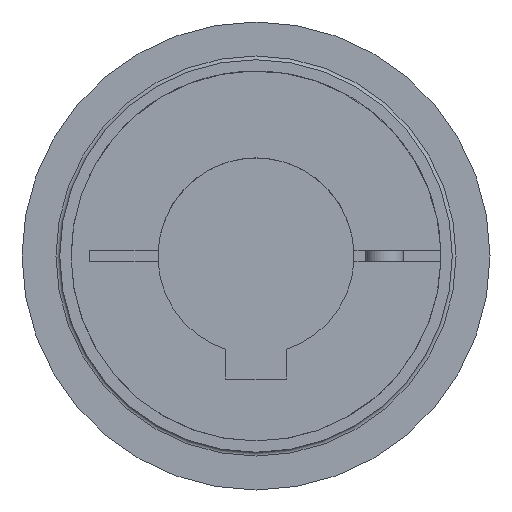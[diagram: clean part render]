
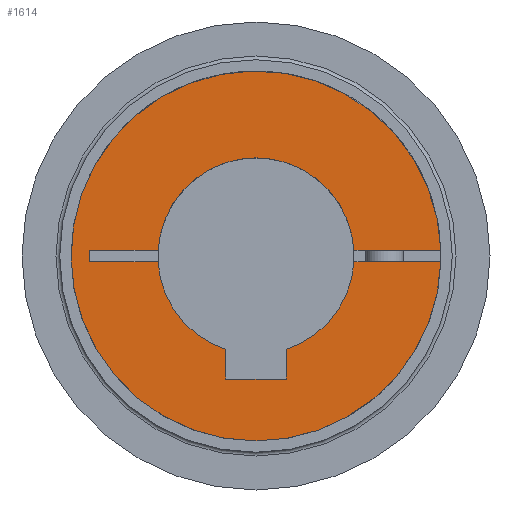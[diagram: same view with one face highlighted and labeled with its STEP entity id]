
A CAD part, left-side view. The second image highlights one B-rep face of the part: STEP entity #1614.
In plain terms, the highlighted planar face has unit normal (-1, 0, 0).
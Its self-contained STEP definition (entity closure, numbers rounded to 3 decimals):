
#24=PLANE('',#1855);
#149=LINE('',#2938,#252);
#152=LINE('',#2944,#255);
#153=LINE('',#2946,#256);
#164=LINE('',#2967,#267);
#165=LINE('',#2969,#268);
#166=LINE('',#2971,#269);
#167=LINE('',#2973,#270);
#168=LINE('',#2974,#271);
#252=VECTOR('',#2265,1.);
#255=VECTOR('',#2270,1.);
#256=VECTOR('',#2273,1.);
#267=VECTOR('',#2296,1.);
#268=VECTOR('',#2299,1.);
#269=VECTOR('',#2300,1.);
#270=VECTOR('',#2301,1.);
#271=VECTOR('',#2302,1.);
#387=FACE_OUTER_BOUND('',#490,.T.);
#490=EDGE_LOOP('',(#1332,#1333,#1334,#1335,#1336,#1337,#1338,#1339,#1340,
#1341,#1342,#1343,#1344));
#652=CIRCLE('',#1790,24.5);
#655=CIRCLE('',#1793,24.5);
#686=CIRCLE('',#1839,13.);
#689=CIRCLE('',#1843,13.);
#691=CIRCLE('',#1845,13.);
#761=VERTEX_POINT('',#2634);
#762=VERTEX_POINT('',#2636);
#767=VERTEX_POINT('',#2646);
#808=VERTEX_POINT('',#2908);
#809=VERTEX_POINT('',#2909);
#814=VERTEX_POINT('',#2920);
#815=VERTEX_POINT('',#2922);
#818=VERTEX_POINT('',#2928);
#819=VERTEX_POINT('',#2930);
#821=VERTEX_POINT('',#2936);
#823=VERTEX_POINT('',#2942);
#828=VERTEX_POINT('',#2970);
#829=VERTEX_POINT('',#2972);
#946=EDGE_CURVE('',#761,#762,#652,.T.);
#952=EDGE_CURVE('',#767,#761,#655,.T.);
#1005=EDGE_CURVE('',#808,#809,#686,.T.);
#1011=EDGE_CURVE('',#815,#814,#689,.T.);
#1015=EDGE_CURVE('',#819,#818,#691,.T.);
#1019=EDGE_CURVE('',#818,#821,#149,.T.);
#1022=EDGE_CURVE('',#821,#823,#152,.T.);
#1023=EDGE_CURVE('',#823,#815,#153,.T.);
#1034=EDGE_CURVE('',#809,#762,#164,.T.);
#1035=EDGE_CURVE('',#767,#819,#165,.T.);
#1036=EDGE_CURVE('',#814,#828,#166,.T.);
#1037=EDGE_CURVE('',#828,#829,#167,.T.);
#1038=EDGE_CURVE('',#829,#808,#168,.T.);
#1332=ORIENTED_EDGE('',*,*,#1005,.T.);
#1333=ORIENTED_EDGE('',*,*,#1034,.T.);
#1334=ORIENTED_EDGE('',*,*,#946,.F.);
#1335=ORIENTED_EDGE('',*,*,#952,.F.);
#1336=ORIENTED_EDGE('',*,*,#1035,.T.);
#1337=ORIENTED_EDGE('',*,*,#1015,.T.);
#1338=ORIENTED_EDGE('',*,*,#1019,.T.);
#1339=ORIENTED_EDGE('',*,*,#1022,.T.);
#1340=ORIENTED_EDGE('',*,*,#1023,.T.);
#1341=ORIENTED_EDGE('',*,*,#1011,.T.);
#1342=ORIENTED_EDGE('',*,*,#1036,.T.);
#1343=ORIENTED_EDGE('',*,*,#1037,.T.);
#1344=ORIENTED_EDGE('',*,*,#1038,.T.);
#1614=ADVANCED_FACE('',(#387),#24,.T.);
#1790=AXIS2_PLACEMENT_3D('',#2637,#2124,#2125);
#1793=AXIS2_PLACEMENT_3D('',#2648,#2133,#2134);
#1839=AXIS2_PLACEMENT_3D('',#2910,#2241,#2242);
#1843=AXIS2_PLACEMENT_3D('',#2923,#2252,#2253);
#1845=AXIS2_PLACEMENT_3D('',#2931,#2258,#2259);
#1855=AXIS2_PLACEMENT_3D('',#2968,#2297,#2298);
#2124=DIRECTION('center_axis',(1.,0.,0.));
#2125=DIRECTION('ref_axis',(0.,0.,1.));
#2133=DIRECTION('center_axis',(1.,0.,0.));
#2134=DIRECTION('ref_axis',(0.,0.,1.));
#2241=DIRECTION('center_axis',(1.,0.,0.));
#2242=DIRECTION('ref_axis',(0.,0.,-1.));
#2252=DIRECTION('center_axis',(1.,0.,0.));
#2253=DIRECTION('ref_axis',(0.,0.,-1.));
#2258=DIRECTION('center_axis',(1.,0.,0.));
#2259=DIRECTION('ref_axis',(0.,0.,-1.));
#2265=DIRECTION('',(0.,0.,-1.));
#2270=DIRECTION('',(0.,1.,0.));
#2273=DIRECTION('',(0.,0.,1.));
#2296=DIRECTION('',(0.,-1.,0.));
#2297=DIRECTION('center_axis',(-1.,0.,0.));
#2298=DIRECTION('ref_axis',(0.,0.,-1.));
#2299=DIRECTION('',(0.,1.,0.));
#2300=DIRECTION('',(0.,1.,0.));
#2301=DIRECTION('',(0.,0.,1.));
#2302=DIRECTION('',(0.,-1.,0.));
#2634=CARTESIAN_POINT('',(0.,0.,-24.5));
#2636=CARTESIAN_POINT('',(0.,-24.489,0.75));
#2637=CARTESIAN_POINT('Origin',(0.,0.,0.));
#2646=CARTESIAN_POINT('',(0.,-24.489,-0.75));
#2648=CARTESIAN_POINT('Origin',(0.,0.,0.));
#2908=CARTESIAN_POINT('',(0.,12.978,0.75));
#2909=CARTESIAN_POINT('',(0.,-12.978,0.75));
#2910=CARTESIAN_POINT('Origin',(0.,0.,0.));
#2920=CARTESIAN_POINT('',(0.,12.978,-0.75));
#2922=CARTESIAN_POINT('',(0.,4.,-12.369));
#2923=CARTESIAN_POINT('Origin',(0.,0.,0.));
#2928=CARTESIAN_POINT('',(0.,-4.,-12.369));
#2930=CARTESIAN_POINT('',(0.,-12.978,-0.75));
#2931=CARTESIAN_POINT('Origin',(0.,0.,0.));
#2936=CARTESIAN_POINT('',(0.,-4.,-16.3));
#2938=CARTESIAN_POINT('',(0.,-4.,2.05));
#2942=CARTESIAN_POINT('',(0.,4.,-16.3));
#2944=CARTESIAN_POINT('',(0.,0.,-16.3));
#2946=CARTESIAN_POINT('',(0.,4.,2.05));
#2967=CARTESIAN_POINT('',(0.,-0.875,0.75));
#2968=CARTESIAN_POINT('Origin',(0.,0.,12.25));
#2969=CARTESIAN_POINT('',(0.,-0.875,-0.75));
#2970=CARTESIAN_POINT('',(0.,22.,-0.75));
#2971=CARTESIAN_POINT('',(0.,-0.875,-0.75));
#2972=CARTESIAN_POINT('',(0.,22.,0.75));
#2973=CARTESIAN_POINT('',(0.,22.,6.125));
#2974=CARTESIAN_POINT('',(0.,-0.875,0.75));
